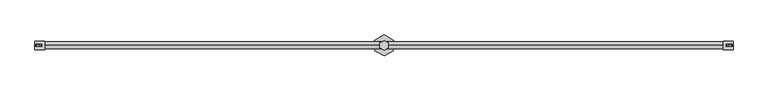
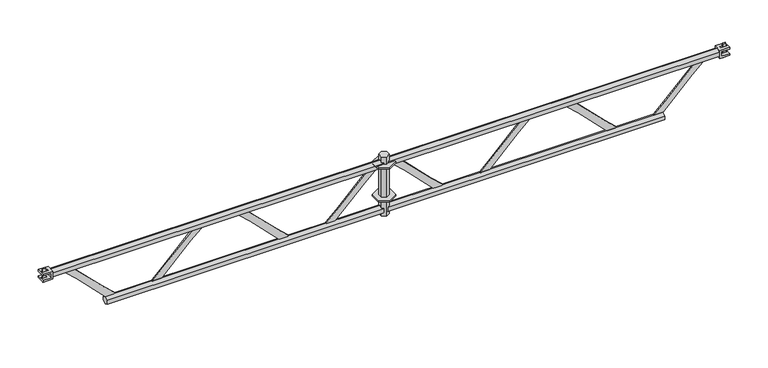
"""IFC4 building model written with IfcOpenShell, lengths in millimetres: proxy geometry, アルバトロスAK2スパンはりわく_軽 : アルバトロスAK2スパンはりわく_軽."""

from ifc_helpers import new_model, si_unit, point, frame, frame_2d, origin, place, context, project, spatial, polyline, circle_curve, trimmed, segment, composite_curve, outline, extrude, faceted_brep, source, transform, mapped, element, save
from ifc_brep_helpers import plane_surface, revolved_surface, advanced_brep


def generic_models_fa30573d(model_context):
    return source(origin(), model_context, "Body", "SolidModel", [
        faceted_brep([(1850.0444173, 12.15, 45.0), (1829.0, 24.3, 45.0), (1807.9555827, 12.15, 45.0), (1807.9555827, -12.15, 45.0), (1829.0, -24.3, 45.0), (1850.0444173, -12.15, 45.0), (1850.0444173, 12.15, -280.0), (1850.0444173, -12.15, -280.0), (1829.0, -24.3, -280.0), (1807.9555827, -12.15, -280.0), (1807.9555827, 12.15, -280.0), (1829.0, 24.3, -280.0), (1850.0444173, 12.15, -264.2851942), (1850.0444173, 0.0, -271.3), (1850.0444173, -12.15, -264.2851942), (1850.0444173, 0.0, -21.35), (1850.0444173, -12.15, -14.3351942), (1850.0444173, -12.15, -235.6148058), (1850.0444173, 0.0, -228.6), (1850.0444173, 12.15, -235.6148058), (1850.0444173, 12.15, -14.3351942), (1850.0444173, -12.15, 14.3351942), (1850.0444173, 0.0, 21.35), (1850.0444173, 12.15, 14.3351942), (1839.0638346, -18.4896424, -260.625), (1839.0638346, -18.4896424, -239.275), (1839.0638346, -18.4896424, -10.675), (1839.0638346, -18.4896424, 10.675), (1807.9555827, -12.15, 14.3351942), (1818.9361654, -18.4896424, 10.675), (1818.9361654, -18.4896424, -10.675), (1807.9555827, -12.15, -14.3351942), (1807.9555827, -12.15, -235.6148058), (1818.9361654, -18.4896424, -239.275), (1818.9361654, -18.4896424, -260.625), (1807.9555827, -12.15, -264.2851942), (1807.9555827, 0.0, -271.3), (1807.9555827, 12.15, -264.2851942), (1807.9555827, 12.15, 14.3351942), (1807.9555827, 0.0, 21.35), (1807.9555827, 12.15, -14.3351942), (1807.9555827, 12.15, -235.6148058), (1807.9555827, 0.0, -228.6), (1807.9555827, 0.0, -21.35), (1818.9361654, 18.4896424, -260.625), (1818.9361654, 18.4896424, -239.275), (1818.9361654, 18.4896424, -10.675), (1818.9361654, 18.4896424, 10.675), (1839.0638346, 18.4896424, 10.675), (1839.0638346, 18.4896424, -10.675), (1839.0638346, 18.4896424, -239.275), (1839.0638346, 18.4896424, -260.625)], [[[0, 1, 2, 3, 4, 5]], [[6, 7, 8, 9, 10, 11]], [[6, 12, 13, 14, 7]], [[15, 16, 17, 18, 19, 20]], [[5, 21, 22, 23, 0]], [[4, 8, 7, 14, 24, 25, 17, 16, 26, 27, 21, 5]], [[3, 28, 29, 30, 31, 32, 33, 34, 35, 9, 8, 4]], [[9, 35, 36, 37, 10]], [[2, 38, 39, 28, 3]], [[40, 41, 42, 32, 31, 43]], [[1, 11, 10, 37, 44, 45, 41, 40, 46, 47, 38, 2]], [[0, 23, 48, 49, 20, 19, 50, 51, 12, 6, 11, 1]], [[30, 29, 27, 26]], [[29, 28, 39, 22, 21, 27]], [[39, 38, 47, 48, 23, 22]], [[47, 46, 49, 48]], [[46, 40, 43, 15, 20, 49]], [[26, 16, 15, 43, 31, 30]], [[45, 44, 51, 50]], [[44, 37, 36, 13, 12, 51]], [[36, 35, 34, 24, 14, 13]], [[34, 33, 25, 24]], [[33, 32, 42, 18, 17, 25]], [[50, 19, 18, 42, 41, 45]]]),
        extrude(outline(polyline([(1874.8993464, 26.5), (1874.8993464, -26.5), (1829.0, -53.0), (1783.1006536, -26.5), (1783.1006536, 26.5), (1829.0, 53.0), (1874.8993464, 26.5)])), frame((0.0, 0.0, -184.0), z_axis=(0.0, 0.0, 1.0), x_axis=(1.0, 0.0, 0.0)), (0.0, 0.0, 1.0), 8.0),
        extrude(outline(polyline([(1874.8993464, 26.5), (1874.8993464, -26.5), (1829.0, -53.0), (1783.1006536, -26.5), (1783.1006536, 26.5), (1829.0, 53.0), (1874.8993464, 26.5)])), frame((0.0, 0.0, -4.0), z_axis=(0.0, 0.0, 1.0), x_axis=(1.0, 0.0, 0.0)), (0.0, 0.0, 1.0), 8.0),
        faceted_brep([(50.0592, -21.5, -12.0), (50.0592, -21.5, -21.5), (100.5, -21.5, -21.5), (100.5, -21.5, 21.5), (50.0592, -21.5, 21.5), (50.0592, -21.5, 12.0), (92.2817611, -21.5, 12.0), (92.2817611, -21.5, -12.0), (50.0592, 21.5, -12.0), (92.2817611, 21.5, -12.0), (92.2817611, 21.5, 12.0), (50.0592, 21.5, 12.0), (50.0592, 21.5, 21.5), (100.5, 21.5, 21.5), (100.5, 21.5, -21.5), (50.0592, 21.5, -21.5), (78.8, 4.25, -12.0), (78.8, -4.25, -12.0), (54.5935462, -4.25, -12.0), (54.5935462, 4.25, -12.0), (54.5935462, 4.25, 12.0), (54.5935462, -4.25, 12.0), (85.8, -4.25, 12.0), (85.8, 4.25, 12.0), (85.8, 4.25, 21.5), (85.8, -4.25, 21.5), (54.5935462, -4.25, 21.5), (54.5935462, 4.25, 21.5), (54.5935462, 4.25, -21.5), (54.5935462, -4.25, -21.5), (78.8, -4.25, -21.5), (78.8, 4.25, -21.5)], [[[0, 1, 2, 3, 4, 5, 6, 7]], [[8, 9, 10, 11, 12, 13, 14, 15]], [[7, 9, 8, 0], [16, 17, 18, 19]], [[5, 11, 10, 6], [20, 21, 22, 23]], [[4, 12, 11, 5]], [[3, 13, 12, 4], [24, 25, 26, 27]], [[1, 15, 14, 2], [28, 29, 30, 31]], [[0, 8, 15, 1]], [[20, 23, 24, 27]], [[23, 22, 25, 24]], [[22, 21, 26, 25]], [[27, 26, 21, 20]], [[28, 31, 16, 19]], [[31, 30, 17, 16]], [[30, 29, 18, 17]], [[19, 18, 29, 28]], [[6, 10, 9, 7]], [[2, 14, 13, 3]]]),
        extrude(outline(polyline([(58.8, -4.0), (58.8, 4.0), (72.6907349, 4.0), (72.6907349, -4.0), (58.8, -4.0)])), frame((0.0, 0.0, -36.75), z_axis=(0.0, 0.0, 1.0), x_axis=(1.0, 0.0, 0.0)), (0.0, 0.0, 1.0), 73.5),
        faceted_brep([(3607.9408, 21.5, -12.0), (3607.9408, 21.5, -21.5), (3557.5, 21.5, -21.5), (3557.5, 21.5, 21.5), (3607.9408, 21.5, 21.5), (3607.9408, 21.5, 12.0), (3565.7182389, 21.5, 12.0), (3565.7182389, 21.5, -12.0), (3607.9408, -21.5, -12.0), (3565.7182389, -21.5, -12.0), (3565.7182389, -21.5, 12.0), (3607.9408, -21.5, 12.0), (3607.9408, -21.5, 21.5), (3557.5, -21.5, 21.5), (3557.5, -21.5, -21.5), (3607.9408, -21.5, -21.5), (3579.2, -4.25, -12.0), (3579.2, 4.25, -12.0), (3603.4064538, 4.25, -12.0), (3603.4064538, -4.25, -12.0), (3603.4064538, -4.25, 12.0), (3603.4064538, 4.25, 12.0), (3572.2, 4.25, 12.0), (3572.2, -4.25, 12.0), (3572.2, -4.25, 21.5), (3572.2, 4.25, 21.5), (3603.4064538, 4.25, 21.5), (3603.4064538, -4.25, 21.5), (3603.4064538, -4.25, -21.5), (3603.4064538, 4.25, -21.5), (3579.2, 4.25, -21.5), (3579.2, -4.25, -21.5)], [[[0, 1, 2, 3, 4, 5, 6, 7]], [[8, 9, 10, 11, 12, 13, 14, 15]], [[7, 9, 8, 0], [16, 17, 18, 19]], [[5, 11, 10, 6], [20, 21, 22, 23]], [[4, 12, 11, 5]], [[3, 13, 12, 4], [24, 25, 26, 27]], [[1, 15, 14, 2], [28, 29, 30, 31]], [[0, 8, 15, 1]], [[20, 23, 24, 27]], [[23, 22, 25, 24]], [[22, 21, 26, 25]], [[27, 26, 21, 20]], [[28, 31, 16, 19]], [[31, 30, 17, 16]], [[30, 29, 18, 17]], [[19, 18, 29, 28]], [[6, 10, 9, 7]], [[2, 14, 13, 3]]]),
        extrude(outline(polyline([(3599.2, 4.0), (3599.2, -4.0), (3585.3092651, -4.0), (3585.3092651, 4.0), (3599.2, 4.0)])), frame((0.0, 0.0, -36.75), z_axis=(0.0, 0.0, 1.0), x_axis=(1.0, 0.0, 0.0)), (0.0, 0.0, 1.0), 73.5),
        extrude(outline(polyline([(-18.4896424, -260.625), (-18.4896424, -239.275), (0.0, -228.6), (18.4896424, -239.275), (18.4896424, -260.625), (0.0, -271.3), (-18.4896424, -260.625)])), frame((1829.0, 0.0, 0.0), z_axis=(1.0, 0.0, 0.0), x_axis=(0.0, 1.0, 0.0)), (0.0, 0.0, 1.0), 1444.1499646),
        extrude(outline(polyline([(-18.4896424, -260.675), (-18.4896424, -239.325), (0.0, -228.65), (18.4896424, -239.325), (18.4896424, -260.675), (0.0, -271.35), (-18.4896424, -260.675)])), frame((384.85, 0.0, 0.0), z_axis=(1.0, 0.0, 0.0), x_axis=(0.0, 1.0, 0.0)), (0.0, 0.0, 1.0), 1444.15),
        extrude(outline(composite_curve([segment(trimmed(circle_curve(frame_2d((-645.2601599, -337.2853599)), 804.3367), [point((-27.527903, 177.8499482))], [point((-76.508225, 231.466575))], True, "CARTESIAN"), True, "CONTINUOUS"), segment(polyline([(-76.508225, 231.466575), (-229.89165, 384.85), (-249.95, 384.85), (-249.95, 429.8500018), (-222.1720512, 429.8500018)]), True, "CONTINUOUS"), segment(trimmed(circle_curve(frame_2d((395.5601849, 944.9853349)), 804.3367), [point((-222.1720512, 429.8500018))], [point((-173.19175, 376.2334))], True, "CARTESIAN"), True, "CONTINUOUS"), segment(polyline([(-173.19175, 376.2334), (-19.8083518, 222.8500018), (0.0, 222.8500018), (0.0, 177.8499482), (-27.527903, 177.8499482)]), True, "CONTINUOUS")], self_intersect=False)), frame((0.0, -2.5, 0.0), z_axis=(0.0, 1.0, 0.0), x_axis=(0.0, 0.0, 1.0)), (0.0, 0.0, 1.0), 5.0),
        advanced_brep(
        [(3557.5, -18.4896424, -10.675), (3557.5, 0.0, -21.35), (3557.5, 18.4896424, -10.675), (3557.5, 18.4896424, 10.675), (3557.5, 0.0, 21.35), (3557.5, -18.4896424, 10.675), (1829.0, -18.4896424, -10.675), (1829.0, -18.4896424, 10.675), (1829.0, 0.0, 21.35), (1829.0, 18.4896424, 10.675), (1829.0, 18.4896424, -10.675), (1829.0, 0.0, -21.35), (1873.3, -18.4896424, 4.5), (1838.3, -18.4896424, 4.5), (1838.3, 18.4896424, 4.5), (1873.3, 18.4896424, 4.5), (1873.3, 18.4896424, -4.5), (1873.3, -18.4896424, -4.5), (1838.3, 18.4896424, -4.5), (1838.3, -18.4896424, -4.5)],
        [
            (0, 1),
            (1, 2),
            (2, 3),
            (3, 4),
            (4, 5),
            (5, 0),
            (6, 7),
            (7, 8),
            (8, 9),
            (9, 10),
            (10, 11),
            (11, 6),
            (12, 13),
            (13, 14),
            (14, 15),
            (15, 12),
            (15, 16, circle_curve(frame((1873.3, 18.4896424, 0.0), z_axis=(0.0, 1.0, 0.0), x_axis=(-1.0, 0.0, 0.0)), 4.5)),
            (16, 17),
            (17, 12, circle_curve(frame((1873.3, -18.4896424, 0.0), z_axis=(0.0, -1.0, 0.0), x_axis=(-1.0, 0.0, 0.0)), 4.5)),
            (16, 18),
            (18, 19),
            (19, 17),
            (18, 14),
            (13, 19),
            (5, 7),
            (6, 0),
            (4, 8),
            (3, 9),
            (2, 10),
            (1, 11),
        ],
        [
            plane_surface(frame((3557.5, -18.4896424, -10.675), z_axis=(1.0, 0.0, 0.0), x_axis=(0.0, 0.0, 1.0))),
            plane_surface(frame((1829.0, -18.4896424, -10.675), z_axis=(-1.0, 0.0, 0.0), x_axis=(0.0, 0.0, -1.0))),
            plane_surface(frame((1873.3, 25.03115, 4.5), z_axis=(2.6609208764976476e-11, 0.0, -1.0), x_axis=(0.0, -1.0, 0.0))),
            revolved_surface(polyline([(1868.8, 18.4896424, 0.0), (1868.8, -18.4896424, 0.0)]), (1873.3, -25.0312, 0.0), (0.0, 1.0, 0.0)),
            plane_surface(frame((1838.3, 25.03115, -4.5), z_axis=(0.0, 0.0, 1.0), x_axis=(0.0, -1.0, 0.0))),
            plane_surface(frame((1838.3, 25.03115, 4.5), z_axis=(1.0, 0.0, 0.0), x_axis=(0.0, -1.0, 0.0))),
            plane_surface(frame((3557.5, -18.4896424, -10.675), z_axis=(0.0, -1.0, 0.0), x_axis=(-1.0, 0.0, 0.0))),
            plane_surface(frame((3557.5, -18.4896424, 10.675), z_axis=(0.0, -0.5000000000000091, 0.8660254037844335), x_axis=(-1.0, 0.0, 0.0))),
            plane_surface(frame((3557.5, 0.0, 21.35), z_axis=(0.0, 0.49999999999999, 0.8660254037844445), x_axis=(-1.0, 0.0, 0.0))),
            plane_surface(frame((3557.5, 18.4896424, 10.675), z_axis=(0.0, 1.0, 0.0), x_axis=(-1.0, 0.0, 0.0))),
            plane_surface(frame((3557.5, 18.4896424, -10.675), z_axis=(0.0, 0.5000000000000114, -0.8660254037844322), x_axis=(-1.0, 0.0, 0.0))),
            plane_surface(frame((3557.5, 0.0, -21.35), z_axis=(0.0, -0.49999999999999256, -0.866025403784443), x_axis=(-1.0, 0.0, 0.0))),
        ],
        [
            (0, [[1, 2, 3, 4, 5, 6]]),
            (1, [[7, 8, 9, 10, 11, 12]]),
            (2, [[13, 14, 15, 16]]),
            (3, [[17, 18, 19, -16]]),
            (4, [[20, 21, 22, -18]]),
            (5, [[23, -14, 24, -21]]),
            (6, [[25, -7, 26, -6], [-19, -22, -24, -13]]),
            (7, [[27, -8, -25, -5]]),
            (8, [[28, -9, -27, -4]]),
            (9, [[29, -10, -28, -3], [-23, -20, -17, -15]]),
            (10, [[30, -11, -29, -2]]),
            (11, [[-26, -12, -30, -1]]),
        ],
    ),
        advanced_brep(
        [(1829.0, -18.4896424, -10.675), (1829.0, 0.0, -21.35), (1829.0, 18.4896424, -10.675), (1829.0, 18.4896424, 10.675), (1829.0, 0.0, 21.35), (1829.0, -18.4896424, 10.675), (100.5, -18.4896424, -10.675), (100.5, -18.4896424, 10.675), (100.5, 0.0, 21.35), (100.5, 18.4896424, 10.675), (100.5, 18.4896424, -10.675), (100.5, 0.0, -21.35), (1819.7, -18.4896424, 4.5), (1784.7, -18.4896424, 4.5), (1784.7, 18.4896424, 4.5), (1819.7, 18.4896424, 4.5), (1784.7, -18.4896424, -4.5), (1784.7, 18.4896424, -4.5), (1819.7, -18.4896424, -4.5), (1819.7, 18.4896424, -4.5)],
        [
            (0, 1),
            (1, 2),
            (2, 3),
            (3, 4),
            (4, 5),
            (5, 0),
            (6, 7),
            (7, 8),
            (8, 9),
            (9, 10),
            (10, 11),
            (11, 6),
            (12, 13),
            (13, 14),
            (14, 15),
            (15, 12),
            (13, 16, circle_curve(frame((1784.7, -18.4896424, 0.0), z_axis=(0.0, -1.0, 0.0), x_axis=(1.0, 0.0, 0.0)), 4.5)),
            (16, 17),
            (17, 14, circle_curve(frame((1784.7, 18.4896424, 0.0), z_axis=(0.0, 1.0, 0.0), x_axis=(1.0, 0.0, 0.0)), 4.5)),
            (16, 18),
            (18, 19),
            (19, 17),
            (15, 19),
            (18, 12),
            (5, 7),
            (6, 0),
            (4, 8),
            (3, 9),
            (2, 10),
            (1, 11),
        ],
        [
            plane_surface(frame((1829.0, -18.4896424, -10.675), z_axis=(1.0, 0.0, 0.0), x_axis=(0.0, 0.0, 1.0))),
            plane_surface(frame((100.5, -18.4896424, -10.675), z_axis=(-1.0, 0.0, 0.0), x_axis=(0.0, 0.0, -1.0))),
            plane_surface(frame((1819.7, 25.03115, 4.5), z_axis=(-2.6609208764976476e-11, 0.0, -1.0), x_axis=(0.0, -1.0, 0.0))),
            revolved_surface(polyline([(1789.2, 18.4896424, 0.0), (1789.2, -18.4896424, 0.0)]), (1784.7, -25.0312, 0.0), (0.0, 1.0, 0.0)),
            plane_surface(frame((1784.7, 25.03115, -4.5), z_axis=(0.0, 0.0, 1.0), x_axis=(0.0, -1.0, 0.0))),
            plane_surface(frame((1819.7, 25.03115, -4.5), z_axis=(-1.0, 0.0, 0.0), x_axis=(0.0, -1.0, 0.0))),
            plane_surface(frame((1829.0, -18.4896424, -10.675), z_axis=(0.0, -1.0, 0.0), x_axis=(-1.0, 0.0, 0.0))),
            plane_surface(frame((1829.0, -18.4896424, 10.675), z_axis=(0.0, -0.5000000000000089, 0.8660254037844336), x_axis=(-1.0, 0.0, 0.0))),
            plane_surface(frame((1829.0, 0.0, 21.35), z_axis=(0.0, 0.4999999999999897, 0.8660254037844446), x_axis=(-1.0, 0.0, 0.0))),
            plane_surface(frame((1829.0, 18.4896424, 10.675), z_axis=(0.0, 1.0, 0.0), x_axis=(-1.0, 0.0, 0.0))),
            plane_surface(frame((1829.0, 18.4896424, -10.675), z_axis=(0.0, 0.5000000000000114, -0.8660254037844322), x_axis=(-1.0, 0.0, 0.0))),
            plane_surface(frame((1829.0, 0.0, -21.35), z_axis=(0.0, -0.4999999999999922, -0.8660254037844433), x_axis=(-1.0, 0.0, 0.0))),
        ],
        [
            (0, [[1, 2, 3, 4, 5, 6]]),
            (1, [[7, 8, 9, 10, 11, 12]]),
            (2, [[13, 14, 15, 16]]),
            (3, [[17, 18, 19, -14]]),
            (4, [[20, 21, 22, -18]]),
            (5, [[23, -21, 24, -16]]),
            (6, [[25, -7, 26, -6], [-24, -20, -17, -13]]),
            (7, [[27, -8, -25, -5]]),
            (8, [[28, -9, -27, -4]]),
            (9, [[29, -10, -28, -3], [-19, -22, -23, -15]]),
            (10, [[30, -11, -29, -2]]),
            (11, [[-26, -12, -30, -1]]),
        ],
    ),
        extrude(outline(composite_curve([segment(polyline([(-27.5279201, 880.1499813), (-1.71e-05, 880.1499813), (-1.71e-05, 835.1499278), (-19.8083689, 835.1499278), (-173.1917671, 681.7665296)]), True, "CONTINUOUS"), segment(trimmed(circle_curve(frame_2d((395.5601678, 113.0145946)), 804.3367), [point((-173.1917671, 681.7665296))], [point((-222.1720683, 628.1499278))], True, "CARTESIAN"), True, "CONTINUOUS"), segment(polyline([(-222.1720683, 628.1499278), (-249.9500171, 628.1499278), (-249.9500171, 673.1499295), (-229.8916671, 673.1499295), (-76.5082421, 826.5333545)]), True, "CONTINUOUS"), segment(trimmed(circle_curve(frame_2d((-645.260177, 1395.2852894)), 804.3367), [point((-76.5082421, 826.5333545))], [point((-27.5279201, 880.1499813))], True, "CARTESIAN"), True, "CONTINUOUS")], self_intersect=False)), frame((0.0, -2.5, 0.0), z_axis=(0.0, 1.0, 0.0), x_axis=(0.0, 0.0, 1.0)), (0.0, 0.0, 1.0), 5.0),
        extrude(outline(composite_curve([segment(trimmed(circle_curve(frame_2d((-645.2601623, 562.7146772)), 804.3367), [point((-27.5279054, 1077.8499853))], [point((-76.5082274, 1131.4666121))], True, "CARTESIAN"), True, "CONTINUOUS"), segment(polyline([(-76.5082274, 1131.4666121), (-229.8916524, 1284.8500371), (-249.9500024, 1284.8500371), (-249.9500024, 1329.8500389), (-222.1720536, 1329.8500389)]), True, "CONTINUOUS"), segment(trimmed(circle_curve(frame_2d((395.5601825, 1844.985372)), 804.3367), [point((-222.1720536, 1329.8500389))], [point((-173.1917524, 1276.2334371))], True, "CARTESIAN"), True, "CONTINUOUS"), segment(polyline([(-173.1917524, 1276.2334371), (-19.8083542, 1122.8500389), (-2.4e-06, 1122.8500389), (-2.4e-06, 1077.8499853), (-27.5279054, 1077.8499853)]), True, "CONTINUOUS")], self_intersect=False)), frame((0.0, -2.5, 0.0), z_axis=(0.0, 1.0, 0.0), x_axis=(0.0, 0.0, 1.0)), (0.0, 0.0, 1.0), 5.0),
        extrude(outline(composite_curve([segment(polyline([(-27.5279225, 1780.1500184), (-1.95e-05, 1780.1500184), (-1.95e-05, 1735.1499649), (-19.8083713, 1735.1499649), (-173.1917695, 1581.7665667)]), True, "CONTINUOUS"), segment(trimmed(circle_curve(frame_2d((395.5601654, 1013.0146317)), 804.3367), [point((-173.1917695, 1581.7665667))], [point((-222.1720707, 1528.1499649))], True, "CARTESIAN"), True, "CONTINUOUS"), segment(polyline([(-222.1720707, 1528.1499649), (-249.9500195, 1528.1499649), (-249.9500195, 1573.1499666), (-229.8916695, 1573.1499666), (-76.5082445, 1726.5333916)]), True, "CONTINUOUS"), segment(trimmed(circle_curve(frame_2d((-645.2601794, 2295.2853265)), 804.3367), [point((-76.5082445, 1726.5333916))], [point((-27.5279225, 1780.1500184))], True, "CARTESIAN"), True, "CONTINUOUS")], self_intersect=False)), frame((0.0, -2.5, 0.0), z_axis=(0.0, 1.0, 0.0), x_axis=(0.0, 0.0, 1.0)), (0.0, 0.0, 1.0), 5.0),
        extrude(outline(composite_curve([segment(trimmed(circle_curve(frame_2d((-645.2601599, 1362.7146401)), 804.3367), [point((-27.527903, 1877.8499482))], [point((-76.508225, 1931.466575))], True, "CARTESIAN"), True, "CONTINUOUS"), segment(polyline([(-76.508225, 1931.466575), (-229.89165, 2084.85), (-249.95, 2084.85), (-249.95, 2129.8500018), (-222.1720512, 2129.8500018)]), True, "CONTINUOUS"), segment(trimmed(circle_curve(frame_2d((395.5601849, 2644.9853349)), 804.3367), [point((-222.1720512, 2129.8500018))], [point((-173.19175, 2076.2334))], True, "CARTESIAN"), True, "CONTINUOUS"), segment(polyline([(-173.19175, 2076.2334), (-19.8083518, 1922.8500018), (0.0, 1922.8500018), (0.0, 1877.8499482), (-27.527903, 1877.8499482)]), True, "CONTINUOUS")], self_intersect=False)), frame((0.0, -2.5, 0.0), z_axis=(0.0, 1.0, 0.0), x_axis=(0.0, 0.0, 1.0)), (0.0, 0.0, 1.0), 5.0),
        extrude(outline(composite_curve([segment(polyline([(-27.5279201, 2580.1499813), (-1.71e-05, 2580.1499813), (-1.71e-05, 2535.1499278), (-19.8083689, 2535.1499278), (-173.1917671, 2381.7665296)]), True, "CONTINUOUS"), segment(trimmed(circle_curve(frame_2d((395.5601678, 1813.0145946)), 804.3367), [point((-173.1917671, 2381.7665296))], [point((-222.1720683, 2328.1499278))], True, "CARTESIAN"), True, "CONTINUOUS"), segment(polyline([(-222.1720683, 2328.1499278), (-249.9500171, 2328.1499278), (-249.9500171, 2373.1499278), (-229.8916689, 2373.1499278), (-76.5082421, 2526.5333545)]), True, "CONTINUOUS"), segment(trimmed(circle_curve(frame_2d((-645.260177, 3095.2852894)), 804.3367), [point((-76.5082421, 2526.5333545))], [point((-27.5279201, 2580.1499813))], True, "CARTESIAN"), True, "CONTINUOUS")], self_intersect=False)), frame((0.0, -2.5, 0.0), z_axis=(0.0, 1.0, 0.0), x_axis=(0.0, 0.0, 1.0)), (0.0, 0.0, 1.0), 5.0),
        extrude(outline(composite_curve([segment(trimmed(circle_curve(frame_2d((-645.2601599, 2262.7146752)), 804.3367), [point((-27.527903, 2777.8499833))], [point((-76.508225, 2831.4666101))], True, "CARTESIAN"), True, "CONTINUOUS"), segment(polyline([(-76.508225, 2831.4666101), (-229.89165, 2984.8500351), (-249.95, 2984.8500351), (-249.95, 3029.8500368), (-222.1720512, 3029.8500368)]), True, "CONTINUOUS"), segment(trimmed(circle_curve(frame_2d((395.5601849, 3544.98537)), 804.3367), [point((-222.1720512, 3029.8500368))], [point((-173.19175, 2976.233435))], True, "CARTESIAN"), True, "CONTINUOUS"), segment(polyline([(-173.19175, 2976.233435), (-19.8083518, 2822.8500368), (0.0, 2822.8500368), (0.0, 2777.8499833), (-27.527903, 2777.8499833)]), True, "CONTINUOUS")], self_intersect=False)), frame((0.0, -2.5, 0.0), z_axis=(0.0, 1.0, 0.0), x_axis=(0.0, 0.0, 1.0)), (0.0, 0.0, 1.0), 5.0),
        extrude(outline(composite_curve([segment(polyline([(-27.5279201, 3480.1500163), (-1.71e-05, 3480.1500163), (-1.71e-05, 3435.1499628), (-19.8083689, 3435.1499628), (-173.1917671, 3281.7665646)]), True, "CONTINUOUS"), segment(trimmed(circle_curve(frame_2d((395.5601678, 2713.0146297)), 804.3367), [point((-173.1917671, 3281.7665646))], [point((-222.1720683, 3228.1499628))], True, "CARTESIAN"), True, "CONTINUOUS"), segment(polyline([(-222.1720683, 3228.1499628), (-249.9500171, 3228.1499628), (-249.9500171, 3273.1499646), (-229.8916671, 3273.1499646), (-76.5082421, 3426.5333896)]), True, "CONTINUOUS"), segment(trimmed(circle_curve(frame_2d((-645.260177, 3995.2853245)), 804.3367), [point((-76.5082421, 3426.5333896))], [point((-27.5279201, 3480.1500163))], True, "CARTESIAN"), True, "CONTINUOUS")], self_intersect=False)), frame((0.0, -2.5, 0.0), z_axis=(0.0, 1.0, 0.0), x_axis=(0.0, 0.0, 1.0)), (0.0, 0.0, 1.0), 5.0),
    ])


if __name__ == "__main__":
    model = new_model("IFC4")
    model_context = context("Model", 3, world=origin())
    ifc_project = project(units=[si_unit("LENGTHUNIT", "METRE", prefix="MILLI")], contexts=[model_context])
    site = spatial("IfcSite", under=ifc_project)
    building = spatial("IfcBuilding", under=site)
    placement = place(None, origin())
    generic_models_shape = generic_models_fa30573d(model_context)
    element("IfcBuildingElementProxy", 1, Name="アルバトロスAK2スパンはりわく_軽 : アルバトロスAK2スパンはりわく_軽", ObjectType="アルバトロスAK2スパンはりわく_軽 : アルバトロスAK2スパンはりわく_軽", at=placement, inside=building, context=model_context, shape_type="MappedRepresentation", body=[
        mapped(generic_models_shape, transform((0.0, 0.0, 0.0), x_axis=(1.0, 0.0, 0.0), y_axis=(0.0, 1.0, 0.0), z_axis=(0.0, 0.0, 1.0))),
    ])
    save(model, "model.ifc")
